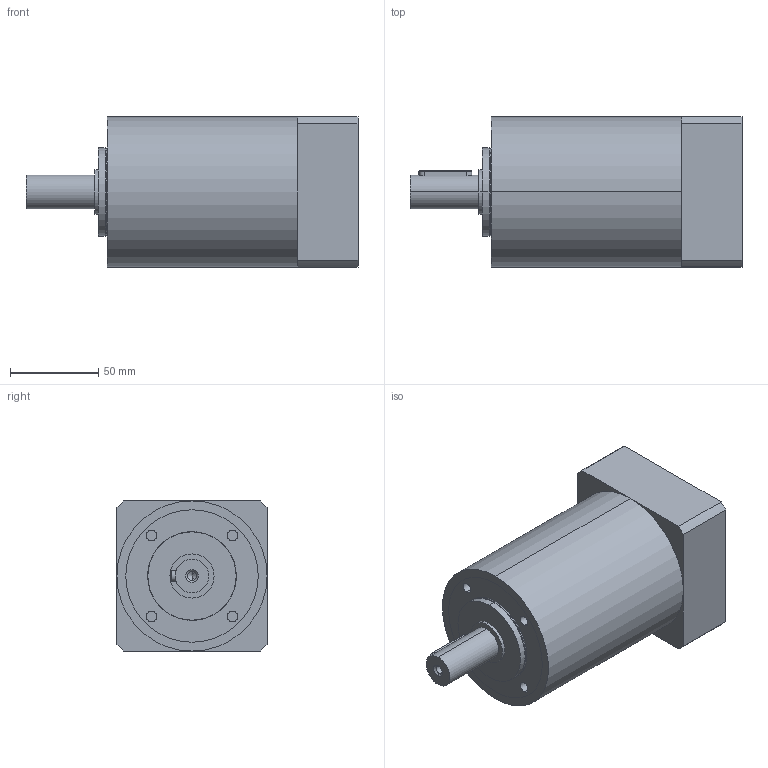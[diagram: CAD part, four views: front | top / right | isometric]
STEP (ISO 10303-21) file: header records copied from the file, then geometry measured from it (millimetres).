
FILE_DESCRIPTION (( 'STEP AP214' ), '1' );
FILE_NAME ('HTRG08N___MHN34x14M_2stage_10.STEP', '2019-10-13T22:42:54', ( '' ), ( '' ), 'SwSTEP 2.0', 'SolidWorks 2018', '' );
FILE_SCHEMA (( 'AUTOMOTIVE_DESIGN' ));
Length unit declared in the file: millimetre
Products named in the file (1): HTRG08N___MHN34x14M_2stage_10
Bounding box: 188 x 85 x 85 mm (x, y, z)
Volume: 831678.6 mm3; surface area: 112484.6 mm2
Topology: 9 solids, 9 shells, 174 faces, 379 edges, 240 vertices
Faces by surface type: cylinder 83, plane 58, cone 27, bspline 6
Entity records: 5564 total; most frequent: CARTESIAN_POINT 1490, DIRECTION 887, ORIENTED_EDGE 750, EDGE_CURVE 375, AXIS2_PLACEMENT_3D 368, VERTEX_POINT 240, EDGE_LOOP 211, CIRCLE 199
